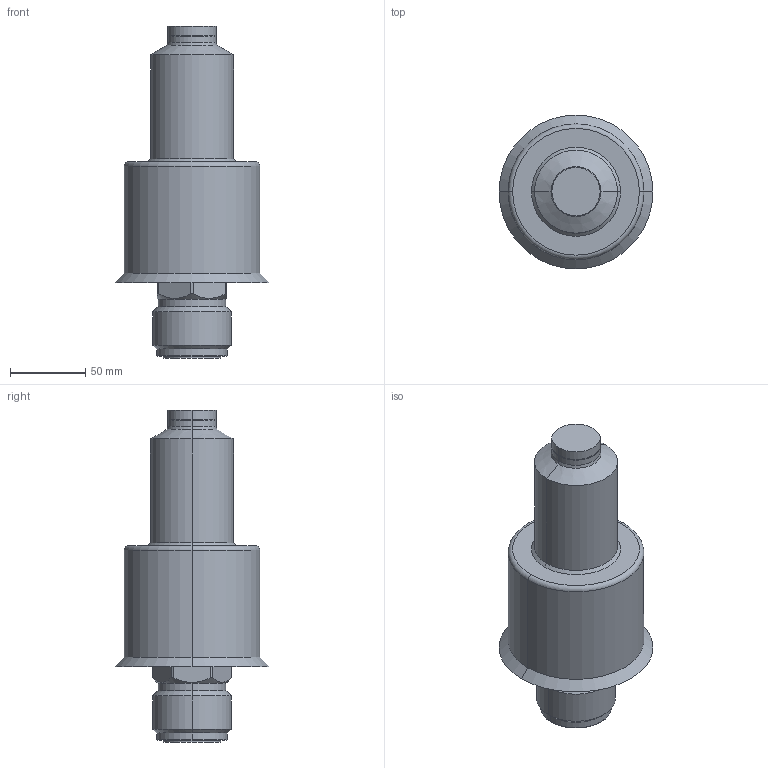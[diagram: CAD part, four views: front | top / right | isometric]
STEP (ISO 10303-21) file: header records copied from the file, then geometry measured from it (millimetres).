
FILE_DESCRIPTION (( 'STEP AP214' ), '1' );
FILE_NAME ('T20_CLOSED_161_BAND_RD.STEP', '2016-09-08T15:28:47', ( '' ), ( '' ), 'SwSTEP 2.0', 'SolidWorks 2015', '' );
FILE_SCHEMA (( 'AUTOMOTIVE_DESIGN' ));
Length unit declared in the file: millimetre
Products named in the file (1): T20_CLOSED_161_BAND_RD
Bounding box: 102 x 102 x 220 mm (x, y, z)
Volume: 1087957.1 mm3; surface area: 93406.8 mm2
Topology: 2 solids, 2 shells, 257 faces, 643 edges, 398 vertices
Faces by surface type: plane 94, cylinder 92, torus 41, cone 26, sphere 2, bspline 2
Entity records: 11318 total; most frequent: CARTESIAN_POINT 2265, DIRECTION 1346, ORIENTED_EDGE 1282, EDGE_CURVE 641, AXIS2_PLACEMENT_3D 531, VERTEX_POINT 398, VECTOR 284, LINE 284
